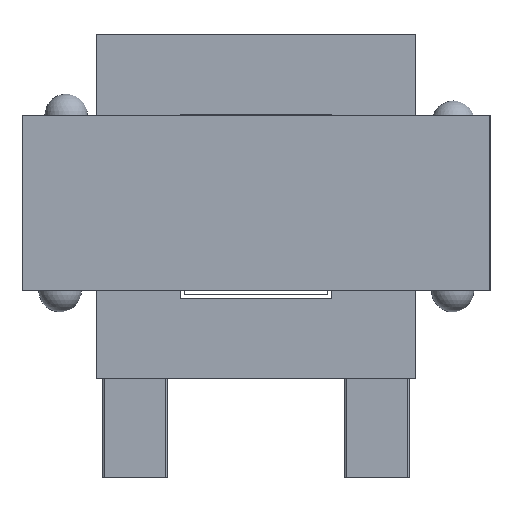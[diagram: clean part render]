
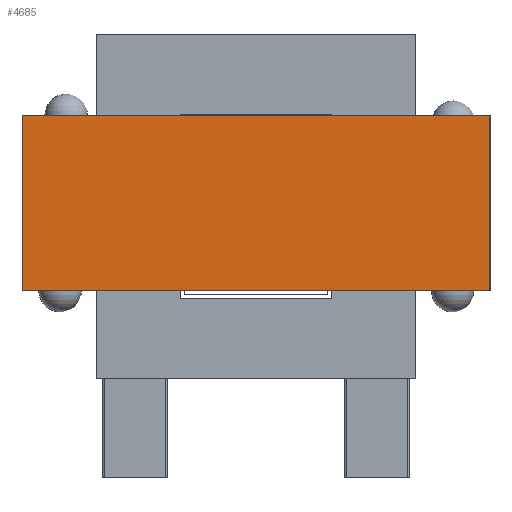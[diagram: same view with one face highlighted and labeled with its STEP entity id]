
A CAD part, front view. The second image highlights one B-rep face of the part: STEP entity #4685.
In plain terms, the highlighted planar face has unit normal (0, -1, 0).
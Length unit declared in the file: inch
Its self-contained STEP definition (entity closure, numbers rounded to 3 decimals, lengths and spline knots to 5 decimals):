
#1761 = CARTESIAN_POINT ( 'NONE',  ( -0.15334, -1.10566, -0.21029 ) ) ;
#2169 = EDGE_CURVE ( 'NONE', #23334, #30602, #38490, .T. ) ;
#4685 = ADVANCED_FACE ( 'NONE', ( #40921 ), #13856, .F. ) ;
#6177 = EDGE_CURVE ( 'NONE', #23334, #15680, #24556, .T. ) ;
#7378 = EDGE_CURVE ( 'NONE', #15680, #30759, #35511, .T. ) ;
#8228 = EDGE_CURVE ( 'NONE', #30602, #30759, #34401, .T. ) ;
#8346 = VECTOR ( 'NONE', #32245, 39.37008 ) ;
#9817 = CARTESIAN_POINT ( 'NONE',  ( -0.15138, -1.10566, 0.60073 ) ) ;
#10872 = ORIENTED_EDGE ( 'NONE', *, *, #2169, .F. ) ;
#13813 = CARTESIAN_POINT ( 'NONE',  ( 2.01201, -1.10566, 0.60073 ) ) ;
#13856 = PLANE ( 'NONE',  #25169 ) ;
#14243 = DIRECTION ( 'NONE',  ( 0., 0., -1. ) ) ;
#14321 = DIRECTION ( 'NONE',  ( 0., 1., 0. ) ) ;
#15680 = VERTEX_POINT ( 'NONE', #1761 ) ;
#16852 = ORIENTED_EDGE ( 'NONE', *, *, #7378, .T. ) ;
#17909 = VECTOR ( 'NONE', #27142, 39.37008 ) ;
#20270 = ORIENTED_EDGE ( 'NONE', *, *, #8228, .F. ) ;
#21242 = VECTOR ( 'NONE', #14243, 39.37008 ) ;
#21481 = EDGE_LOOP ( 'NONE', ( #16852, #20270, #10872, #41522 ) ) ;
#23334 = VERTEX_POINT ( 'NONE', #35644 ) ;
#24556 = LINE ( 'NONE', #35506, #21242 ) ;
#25169 = AXIS2_PLACEMENT_3D ( 'NONE', #32026, #14321, #28585 ) ;
#27142 = DIRECTION ( 'NONE',  ( 1., 0., 0. ) ) ;
#28585 = DIRECTION ( 'NONE',  ( -1., 0., 0. ) ) ;
#29254 = CARTESIAN_POINT ( 'NONE',  ( 2.01201, -1.10566, 0.60073 ) ) ;
#30602 = VERTEX_POINT ( 'NONE', #29254 ) ;
#30759 = VERTEX_POINT ( 'NONE', #41659 ) ;
#32026 = CARTESIAN_POINT ( 'NONE',  ( -0.15138, -1.10566, 0.60073 ) ) ;
#32096 = CARTESIAN_POINT ( 'NONE',  ( -0.15138, -1.10566, -0.21029 ) ) ;
#32245 = DIRECTION ( 'NONE',  ( 1., 0., 0. ) ) ;
#34401 = LINE ( 'NONE', #13813, #36012 ) ;
#35506 = CARTESIAN_POINT ( 'NONE',  ( -0.15334, -1.10566, 0.60073 ) ) ;
#35511 = LINE ( 'NONE', #32096, #8346 ) ;
#35644 = CARTESIAN_POINT ( 'NONE',  ( -0.15334, -1.10566, 0.60073 ) ) ;
#36012 = VECTOR ( 'NONE', #45572, 39.37008 ) ;
#38490 = LINE ( 'NONE', #9817, #17909 ) ;
#40921 = FACE_OUTER_BOUND ( 'NONE', #21481, .T. ) ;
#41522 = ORIENTED_EDGE ( 'NONE', *, *, #6177, .T. ) ;
#41659 = CARTESIAN_POINT ( 'NONE',  ( 2.01201, -1.10566, -0.21029 ) ) ;
#45572 = DIRECTION ( 'NONE',  ( 0., 0., -1. ) ) ;
